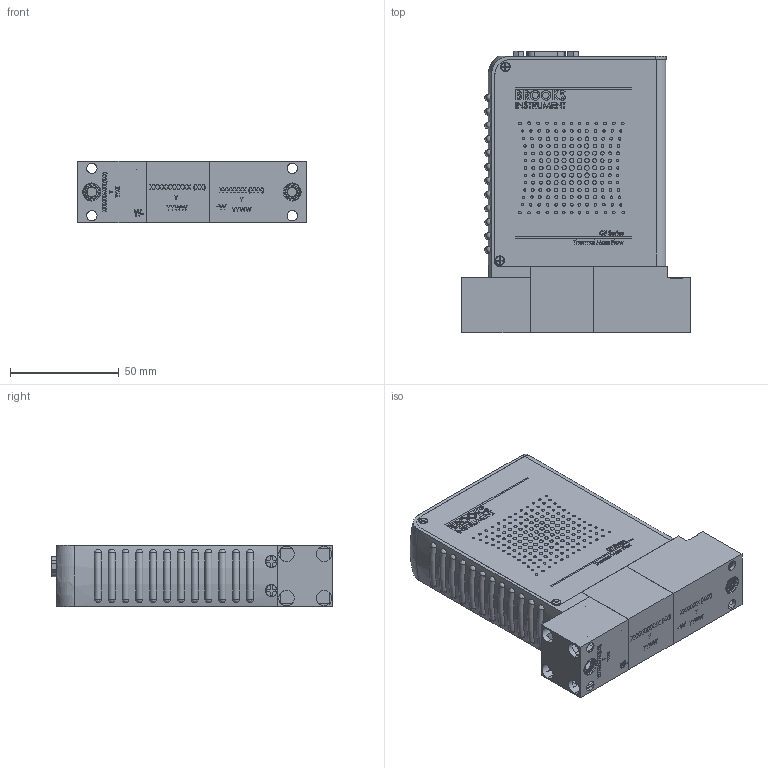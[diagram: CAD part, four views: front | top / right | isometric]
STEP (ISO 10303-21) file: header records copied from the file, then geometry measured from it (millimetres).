
FILE_DESCRIPTION (( 'STEP AP203' ), '1' );
FILE_NAME ('GF100-GF120-GF125-WX-GX.STEP', '2022-08-29T18:27:40', ( '' ), ( '' ), 'SwSTEP 2.0', 'SolidWorks 2020', '' );
FILE_SCHEMA (( 'CONFIG_CONTROL_DESIGN' ));
Length unit declared in the file: inch
Products named in the file (1): GF100-GF120-GF125-WX-GX
Bounding box: 104.95 x 129.41 x 28.46 mm (x, y, z)
Volume: 55749.7 mm3; surface area: 79132 mm2
Topology: 66 solids, 66 shells, 3170 faces, 8104 edges, 5316 vertices
Faces by surface type: plane 1962, cylinder 641, bspline 350, cone 170, torus 41, sphere 6
Entity records: 113404 total; most frequent: CARTESIAN_POINT 37776, ORIENTED_EDGE 16144, DIRECTION 14359, EDGE_CURVE 8072, LINE 5597, VECTOR 5597, VERTEX_POINT 5310, AXIS2_PLACEMENT_3D 4381
